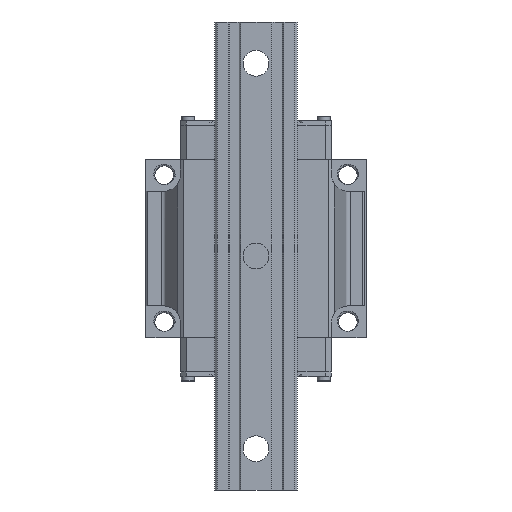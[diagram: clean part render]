
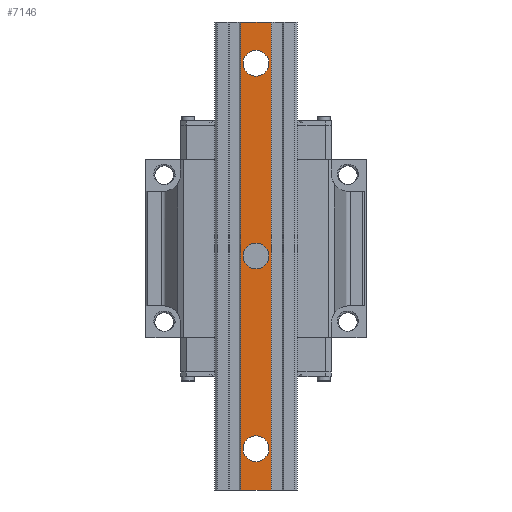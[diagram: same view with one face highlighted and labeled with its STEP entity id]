
A CAD part, front view. The second image highlights one B-rep face of the part: STEP entity #7146.
In plain terms, the highlighted planar face has unit normal (0, -1, 0).
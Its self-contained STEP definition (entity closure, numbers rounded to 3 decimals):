
#6717=FACE_BOUND('',#9499,.T.);
#6718=FACE_BOUND('',#9500,.T.);
#6719=FACE_BOUND('',#9501,.T.);
#6720=FACE_BOUND('',#9502,.T.);
#7146=ADVANCED_FACE('',(#6717,#6718,#6719,#6720),#8079,.T.);
#8079=PLANE('',#23074);
#9499=EDGE_LOOP('',(#11044,#11045,#11046,#11047));
#9500=EDGE_LOOP('',(#11048,#11049));
#9501=EDGE_LOOP('',(#11050,#11051));
#9502=EDGE_LOOP('',(#11052,#11053));
#10588=CIRCLE('',#23068,7.);
#10589=CIRCLE('',#23069,7.);
#10590=CIRCLE('',#23070,7.);
#10591=CIRCLE('',#23071,7.);
#10592=CIRCLE('',#23072,7.);
#10593=CIRCLE('',#23073,7.);
#11044=ORIENTED_EDGE('',*,*,#17416,.T.);
#11045=ORIENTED_EDGE('',*,*,#17417,.F.);
#11046=ORIENTED_EDGE('',*,*,#17418,.F.);
#11047=ORIENTED_EDGE('',*,*,#17354,.T.);
#11048=ORIENTED_EDGE('',*,*,#17419,.T.);
#11049=ORIENTED_EDGE('',*,*,#17420,.T.);
#11050=ORIENTED_EDGE('',*,*,#17421,.T.);
#11051=ORIENTED_EDGE('',*,*,#17422,.T.);
#11052=ORIENTED_EDGE('',*,*,#17423,.T.);
#11053=ORIENTED_EDGE('',*,*,#17424,.T.);
#15756=VERTEX_POINT('',#28271);
#15757=VERTEX_POINT('',#28273);
#15799=VERTEX_POINT('',#28395);
#15800=VERTEX_POINT('',#28399);
#15801=VERTEX_POINT('',#28402);
#15802=VERTEX_POINT('',#28403);
#15803=VERTEX_POINT('',#28406);
#15804=VERTEX_POINT('',#28407);
#15805=VERTEX_POINT('',#28410);
#15806=VERTEX_POINT('',#28411);
#17354=EDGE_CURVE('',#15757,#15756,#19754,.T.);
#17416=EDGE_CURVE('',#15756,#15799,#19801,.T.);
#17417=EDGE_CURVE('',#15800,#15799,#19802,.T.);
#17418=EDGE_CURVE('',#15757,#15800,#19803,.T.);
#17419=EDGE_CURVE('',#15801,#15802,#10588,.T.);
#17420=EDGE_CURVE('',#15802,#15801,#10589,.T.);
#17421=EDGE_CURVE('',#15803,#15804,#10590,.T.);
#17422=EDGE_CURVE('',#15804,#15803,#10591,.T.);
#17423=EDGE_CURVE('',#15805,#15806,#10592,.T.);
#17424=EDGE_CURVE('',#15806,#15805,#10593,.T.);
#19754=LINE('',#28272,#21346);
#19801=LINE('',#28396,#21393);
#19802=LINE('',#28398,#21394);
#19803=LINE('',#28400,#21395);
#21346=VECTOR('',#24224,1.);
#21393=VECTOR('',#24339,1.);
#21394=VECTOR('',#24342,1.);
#21395=VECTOR('',#24343,1.);
#23068=AXIS2_PLACEMENT_3D('',#28401,#24344,#24345);
#23069=AXIS2_PLACEMENT_3D('',#28404,#24346,#24347);
#23070=AXIS2_PLACEMENT_3D('',#28405,#24348,#24349);
#23071=AXIS2_PLACEMENT_3D('',#28408,#24350,#24351);
#23072=AXIS2_PLACEMENT_3D('',#28409,#24352,#24353);
#23073=AXIS2_PLACEMENT_3D('',#28412,#24354,#24355);
#23074=AXIS2_PLACEMENT_3D('',#28413,#24356,#24357);
#24224=DIRECTION('',(1.,0.,0.));
#24339=DIRECTION('',(0.,0.,1.));
#24342=DIRECTION('',(1.,0.,0.));
#24343=DIRECTION('',(0.,0.,1.));
#24344=DIRECTION('',(0.,1.,0.));
#24345=DIRECTION('',(1.,0.,0.));
#24346=DIRECTION('',(0.,1.,0.));
#24347=DIRECTION('',(-1.,0.,0.));
#24348=DIRECTION('',(0.,1.,0.));
#24349=DIRECTION('',(1.,0.,0.));
#24350=DIRECTION('',(0.,1.,0.));
#24351=DIRECTION('',(-1.,0.,0.));
#24352=DIRECTION('',(0.,1.,0.));
#24353=DIRECTION('',(1.,0.,0.));
#24354=DIRECTION('',(0.,1.,0.));
#24355=DIRECTION('',(-1.,0.,0.));
#24356=DIRECTION('',(0.,-1.,0.));
#24357=DIRECTION('',(1.,0.,0.));
#28271=CARTESIAN_POINT('',(8.25,-38.,-127.5));
#28272=CARTESIAN_POINT('',(-8.25,-38.,-127.5));
#28273=CARTESIAN_POINT('',(-8.25,-38.,-127.5));
#28395=CARTESIAN_POINT('',(8.25,-38.,127.5));
#28396=CARTESIAN_POINT('',(8.25,-38.,-127.5));
#28398=CARTESIAN_POINT('',(-8.25,-38.,127.5));
#28399=CARTESIAN_POINT('',(-8.25,-38.,127.5));
#28400=CARTESIAN_POINT('',(-8.25,-38.,-127.5));
#28401=CARTESIAN_POINT('',(0.,-38.,0.));
#28402=CARTESIAN_POINT('',(7.,-38.,0.));
#28403=CARTESIAN_POINT('',(-7.,-38.,0.));
#28404=CARTESIAN_POINT('',(0.,-38.,0.));
#28405=CARTESIAN_POINT('',(0.,-38.,105.));
#28406=CARTESIAN_POINT('',(7.,-38.,105.));
#28407=CARTESIAN_POINT('',(-7.,-38.,105.));
#28408=CARTESIAN_POINT('',(0.,-38.,105.));
#28409=CARTESIAN_POINT('',(0.,-38.,-105.));
#28410=CARTESIAN_POINT('',(7.,-38.,-105.));
#28411=CARTESIAN_POINT('',(-7.,-38.,-105.));
#28412=CARTESIAN_POINT('',(0.,-38.,-105.));
#28413=CARTESIAN_POINT('',(-8.25,-38.,-127.5));
